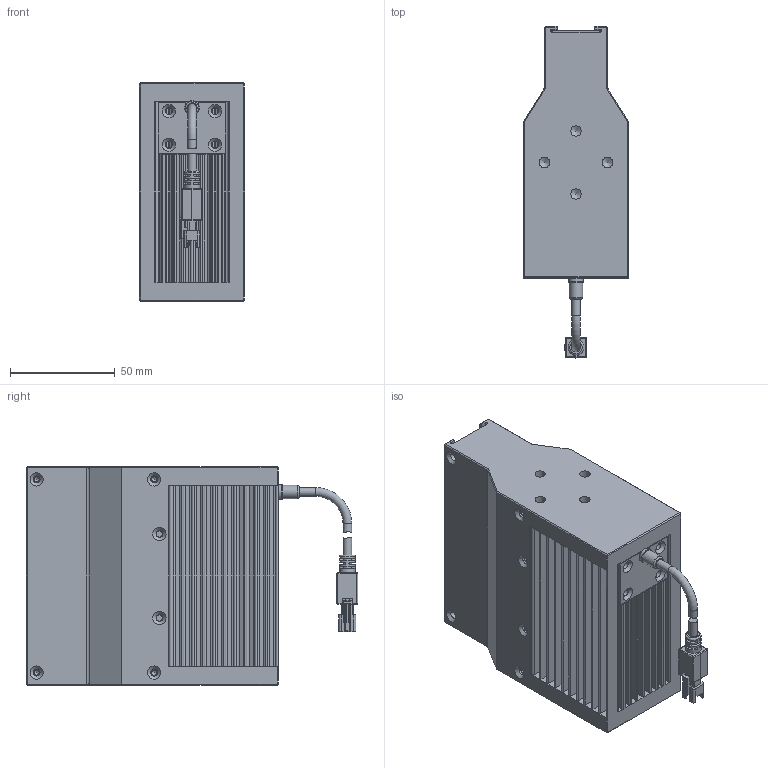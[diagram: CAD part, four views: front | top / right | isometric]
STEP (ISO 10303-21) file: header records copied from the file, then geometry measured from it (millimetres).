
FILE_DESCRIPTION (( 'STEP AP203' ), '1' );
FILE_NAME ('OPT-LSNL104-W-V1.0U尨砩芞.STEP', '2025-02-17T08:43:27', ( '' ), ( '' ), 'SwSTEP 2.0', 'SolidWorks 2016', '' );
FILE_SCHEMA (( 'CONFIG_CONTROL_DESIGN' ));
Length unit declared in the file: millimetre
Products named in the file (1): OPT-LSNL104-W-V1.0U尨砩芞
Bounding box: 50.02 x 158 x 104 mm (x, y, z)
Volume: 395781.4 mm3; surface area: 133436.8 mm2
Topology: 9 solids, 16 shells, 1001 faces, 2752 edges, 1770 vertices
Faces by surface type: plane 600, cylinder 328, cone 44, bspline 21, torus 8
Full cylindrical faces by diameter (mm): 1.1 x2, 1.4 x2, 2.5 x10, 3 x8, 3.4 x16, 3.5 x1, 4.1 x4, 5 x8, 5.8 x1, 6.5 x1, 7 x1, 7.5 x1
Entity records: 33878 total; most frequent: CARTESIAN_POINT 9512, ORIENTED_EDGE 5172, DIRECTION 4732, EDGE_CURVE 2586, VERTEX_POINT 1714, VECTOR 1676, LINE 1676, AXIS2_PLACEMENT_3D 1528
